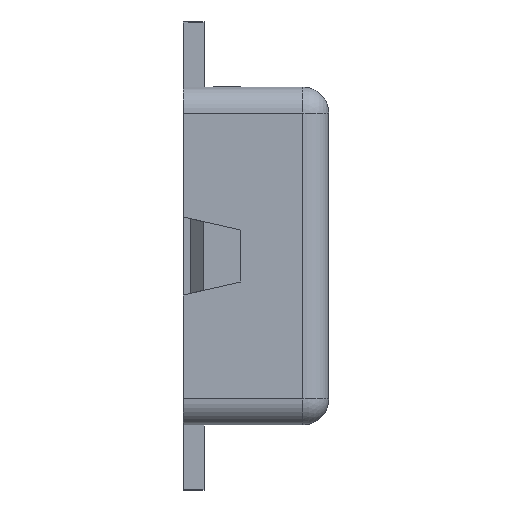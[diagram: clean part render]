
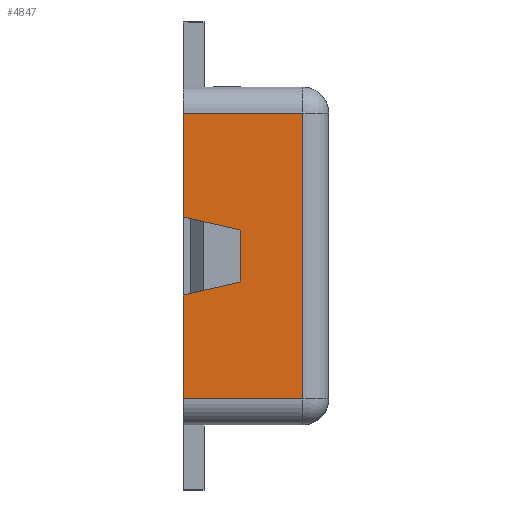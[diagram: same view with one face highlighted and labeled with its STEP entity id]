
A CAD part, left-side view. The second image highlights one B-rep face of the part: STEP entity #4847.
In plain terms, the highlighted planar face has unit normal (-1, 0, 0).
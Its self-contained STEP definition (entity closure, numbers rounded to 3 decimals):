
#372 = CARTESIAN_POINT ( 'NONE',  ( -3.28, 0.48, -0.1 ) ) ;
#379 = DIRECTION ( 'NONE',  ( 0., 0., 1. ) ) ;
#460 = DIRECTION ( 'NONE',  ( 0., 0., 1. ) ) ;
#467 = VECTOR ( 'NONE', #3004, 1000. ) ;
#499 = VERTEX_POINT ( 'NONE', #5642 ) ;
#721 = VECTOR ( 'NONE', #379, 1000. ) ;
#953 = CARTESIAN_POINT ( 'NONE',  ( -3.28, 0.7, -0.55 ) ) ;
#955 = LINE ( 'NONE', #5798, #3542 ) ;
#1042 = LINE ( 'NONE', #372, #6583 ) ;
#1097 = CARTESIAN_POINT ( 'NONE',  ( -3.28, 0.27, 0.45 ) ) ;
#1250 = LINE ( 'NONE', #4745, #1847 ) ;
#1255 = VECTOR ( 'NONE', #460, 1000. ) ;
#1315 = EDGE_CURVE ( 'NONE', #499, #7826, #2281, .T. ) ;
#1392 = EDGE_CURVE ( 'NONE', #2938, #2639, #1250, .T. ) ;
#1684 = CARTESIAN_POINT ( 'NONE',  ( -3.28, 0.24, 0.45 ) ) ;
#1847 = VECTOR ( 'NONE', #6013, 1000. ) ;
#1991 = CARTESIAN_POINT ( 'NONE',  ( -3.28, 0.48, 0.1 ) ) ;
#2113 = VERTEX_POINT ( 'NONE', #2292 ) ;
#2169 = ORIENTED_EDGE ( 'NONE', *, *, #1392, .T. ) ;
#2181 = ORIENTED_EDGE ( 'NONE', *, *, #7291, .F. ) ;
#2232 = EDGE_CURVE ( 'NONE', #7293, #499, #2565, .T. ) ;
#2281 = LINE ( 'NONE', #1684, #5649 ) ;
#2292 = CARTESIAN_POINT ( 'NONE',  ( -3.28, 0.7, -0.15 ) ) ;
#2386 = AXIS2_PLACEMENT_3D ( 'NONE', #1097, #5832, #4080 ) ;
#2565 = LINE ( 'NONE', #7221, #467 ) ;
#2639 = VERTEX_POINT ( 'NONE', #1991 ) ;
#2764 = CARTESIAN_POINT ( 'NONE',  ( -3.28, 0.48, -0.1 ) ) ;
#2777 = CARTESIAN_POINT ( 'NONE',  ( -3.28, 0.7, 0.55 ) ) ;
#2790 = EDGE_CURVE ( 'NONE', #4794, #2639, #7156, .T. ) ;
#2938 = VERTEX_POINT ( 'NONE', #3064 ) ;
#3000 = CARTESIAN_POINT ( 'NONE',  ( -3.28, 0.24, -0.55 ) ) ;
#3004 = DIRECTION ( 'NONE',  ( 0., -1., 0. ) ) ;
#3064 = CARTESIAN_POINT ( 'NONE',  ( -3.28, 0.7, 0.15 ) ) ;
#3409 = DIRECTION ( 'NONE',  ( 0., 1., 0. ) ) ;
#3542 = VECTOR ( 'NONE', #7663, 1000. ) ;
#3582 = ORIENTED_EDGE ( 'NONE', *, *, #6869, .T. ) ;
#3639 = EDGE_CURVE ( 'NONE', #7826, #7168, #5160, .T. ) ;
#3946 = ORIENTED_EDGE ( 'NONE', *, *, #6483, .F. ) ;
#4080 = DIRECTION ( 'NONE',  ( 0., 0., -1. ) ) ;
#4711 = DIRECTION ( 'NONE',  ( 0., 0., -1. ) ) ;
#4745 = CARTESIAN_POINT ( 'NONE',  ( -3.28, 0.7, 0.15 ) ) ;
#4794 = VERTEX_POINT ( 'NONE', #2764 ) ;
#4847 = ADVANCED_FACE ( 'NONE', ( #5791 ), #7103, .T. ) ;
#5160 = LINE ( 'NONE', #953, #5550 ) ;
#5301 = ORIENTED_EDGE ( 'NONE', *, *, #2790, .F. ) ;
#5550 = VECTOR ( 'NONE', #3409, 1000. ) ;
#5599 = CARTESIAN_POINT ( 'NONE',  ( -3.28, 0.7, -0.55 ) ) ;
#5642 = CARTESIAN_POINT ( 'NONE',  ( -3.28, 0.24, 0.55 ) ) ;
#5649 = VECTOR ( 'NONE', #4711, 1000. ) ;
#5791 = FACE_OUTER_BOUND ( 'NONE', #6918, .T. ) ;
#5798 = CARTESIAN_POINT ( 'NONE',  ( -3.28, 0.7, -0.58 ) ) ;
#5832 = DIRECTION ( 'NONE',  ( -1., 0., 0. ) ) ;
#5851 = CARTESIAN_POINT ( 'NONE',  ( -3.28, 0.48, 0.21 ) ) ;
#5933 = LINE ( 'NONE', #7722, #1255 ) ;
#6013 = DIRECTION ( 'NONE',  ( 0., -0.975, -0.222 ) ) ;
#6126 = ORIENTED_EDGE ( 'NONE', *, *, #3639, .F. ) ;
#6367 = ORIENTED_EDGE ( 'NONE', *, *, #2232, .F. ) ;
#6404 = ORIENTED_EDGE ( 'NONE', *, *, #1315, .F. ) ;
#6435 = DIRECTION ( 'NONE',  ( 0., 0.975, -0.222 ) ) ;
#6483 = EDGE_CURVE ( 'NONE', #7168, #2113, #5933, .T. ) ;
#6583 = VECTOR ( 'NONE', #6435, 1000. ) ;
#6869 = EDGE_CURVE ( 'NONE', #4794, #2113, #1042, .T. ) ;
#6918 = EDGE_LOOP ( 'NONE', ( #5301, #3582, #3946, #6126, #6404, #6367, #2181, #2169 ) ) ;
#7103 = PLANE ( 'NONE',  #2386 ) ;
#7156 = LINE ( 'NONE', #5851, #721 ) ;
#7168 = VERTEX_POINT ( 'NONE', #5599 ) ;
#7221 = CARTESIAN_POINT ( 'NONE',  ( -3.28, 0.27, 0.55 ) ) ;
#7291 = EDGE_CURVE ( 'NONE', #2938, #7293, #955, .T. ) ;
#7293 = VERTEX_POINT ( 'NONE', #2777 ) ;
#7663 = DIRECTION ( 'NONE',  ( 0., 0., 1. ) ) ;
#7722 = CARTESIAN_POINT ( 'NONE',  ( -3.28, 0.7, -0.58 ) ) ;
#7826 = VERTEX_POINT ( 'NONE', #3000 ) ;
